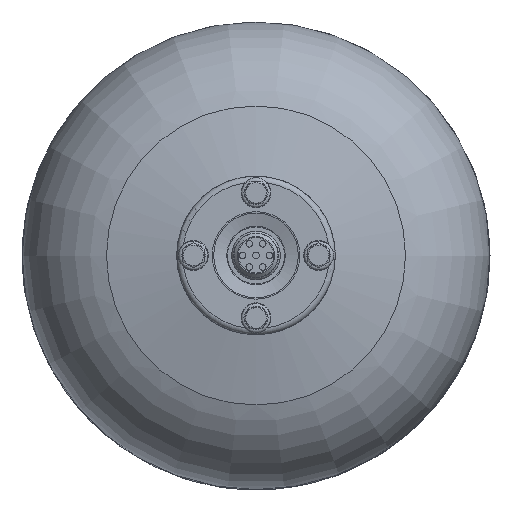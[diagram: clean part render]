
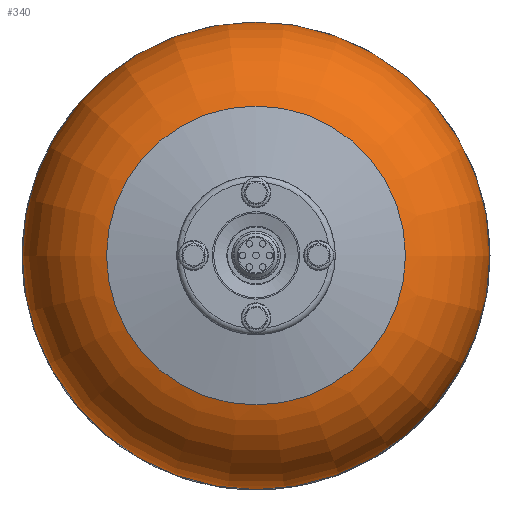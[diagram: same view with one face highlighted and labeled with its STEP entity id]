
A CAD part, top view. The second image highlights one B-rep face of the part: STEP entity #340.
In plain terms, the highlighted toroidal (fillet/blend) face has major radius 70 mm and minor radius 70 mm.
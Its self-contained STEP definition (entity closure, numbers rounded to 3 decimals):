
#340=ADVANCED_FACE('',(#2011,#2013),#2015,.T.);
#2011=FACE_BOUND('',#2012,.T.);
#2012=EDGE_LOOP('',(#4525,#4526));
#2013=FACE_OUTER_BOUND('',#2014,.T.);
#2014=EDGE_LOOP('',(#4527));
#2015=DEGENERATE_TOROIDAL_SURFACE('',#2016,70.,70.,.T.);
#2016=AXIS2_PLACEMENT_3D('',#2017,#2018,#2019);
#2017=CARTESIAN_POINT('',(0.,0.,91.896));
#2018=DIRECTION('',(0.,0.,1.));
#2019=DIRECTION('',(1.,0.,0.));
#4525=ORIENTED_EDGE('',*,*,#6659,.T.);
#4526=ORIENTED_EDGE('',*,*,#6660,.T.);
#4527=ORIENTED_EDGE('',*,*,#6661,.F.);
#6659=EDGE_CURVE('',#7235,#7236,#7237,.T.);
#6660=EDGE_CURVE('',#7236,#7235,#7238,.T.);
#6661=EDGE_CURVE('',#7239,#7239,#7240,.T.);
#7235=VERTEX_POINT('',#8647);
#7236=VERTEX_POINT('',#8648);
#7237=CIRCLE('',#8649,140.);
#7238=CIRCLE('',#8653,140.);
#7239=VERTEX_POINT('',#8657);
#7240=CIRCLE('',#8658,89.6);
#8647=CARTESIAN_POINT('',(140.,0.,91.896));
#8648=CARTESIAN_POINT('',(-140.,0.,91.896));
#8649=AXIS2_PLACEMENT_3D('',#8650,#8651,#8652);
#8650=CARTESIAN_POINT('',(0.,0.,91.896));
#8651=DIRECTION('',(0.,0.,1.));
#8652=DIRECTION('',(1.,0.,0.));
#8653=AXIS2_PLACEMENT_3D('',#8654,#8655,#8656);
#8654=CARTESIAN_POINT('',(0.,0.,91.896));
#8655=DIRECTION('',(0.,0.,1.));
#8656=DIRECTION('',(-1.,0.,0.));
#8657=CARTESIAN_POINT('',(-89.6,0.,159.096));
#8658=AXIS2_PLACEMENT_3D('',#8659,#8660,#8661);
#8659=CARTESIAN_POINT('',(0.,0.,159.096));
#8660=DIRECTION('',(0.,0.,1.));
#8661=DIRECTION('',(-1.,0.,0.));
